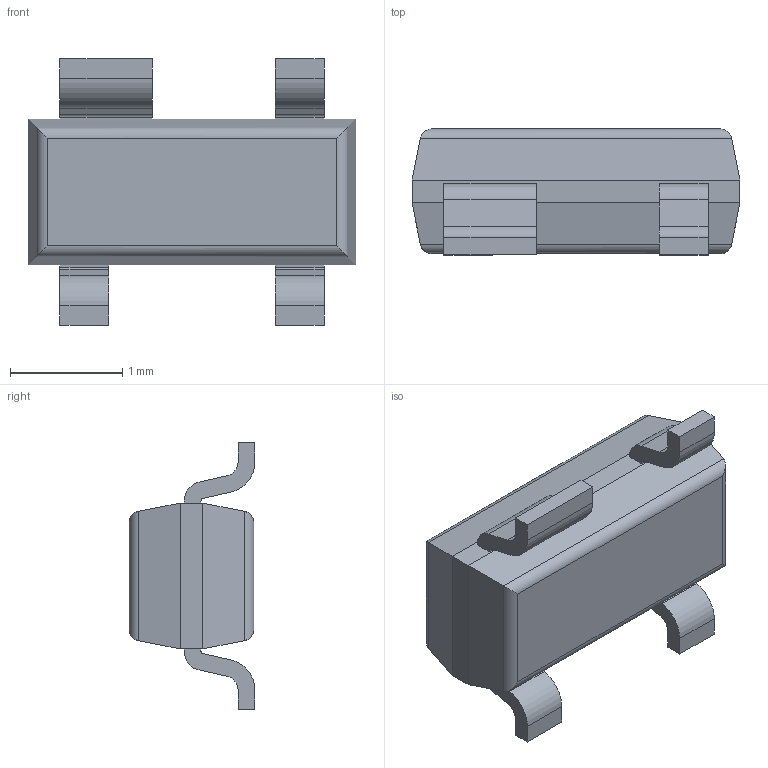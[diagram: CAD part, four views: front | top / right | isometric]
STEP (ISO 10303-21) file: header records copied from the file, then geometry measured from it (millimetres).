
FILE_DESCRIPTION (( 'STEP AP214' ), '1' );
FILE_NAME ( 'SOT192P237X112-4L20.STEP', '2014-04-11T12:31:22', ( '' ), ( '' ), 'FPX Expert 2013', 'PCB Libraries', '' );
FILE_SCHEMA (( 'AUTOMOTIVE_DESIGN' ));
Length unit declared in the file: millimetre
Products named in the file (1): SOT192P237X112-4L20
Bounding box: 2.92 x 1.12 x 2.37 mm (x, y, z)
Volume: 4.1 mm3; surface area: 20.2 mm2
Topology: 5 solids, 5 shells, 78 faces, 188 edges, 120 vertices
Faces by surface type: plane 54, cylinder 24
Entity records: 2541 total; most frequent: CARTESIAN_POINT 411, ORIENTED_EDGE 376, DIRECTION 370, EDGE_CURVE 188, VECTOR 148, LINE 148, VERTEX_POINT 120, AXIS2_PLACEMENT_3D 111
